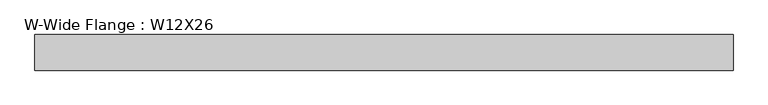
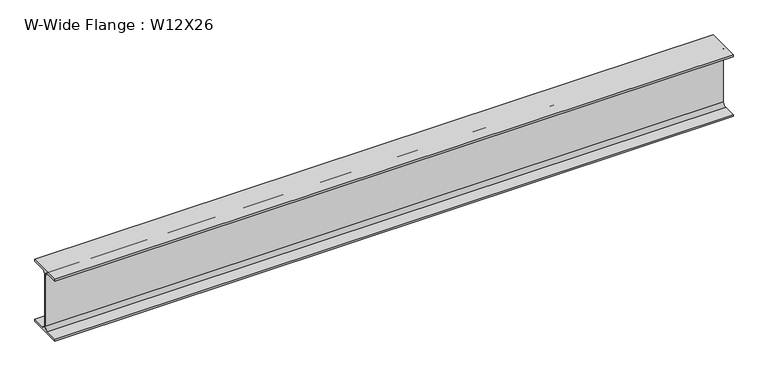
"""IFC4 building model written with IfcOpenShell, lengths in millimetres: beam geometry, W-Wide Flange : W12X26."""

from ifc_helpers import new_model, si_unit, point, frame, frame_2d, origin, place, context, project, spatial, polyline, circle_curve, trimmed, segment, composite_curve, outline, extrude, source, transform, mapped, element, save


def w_wide_flange_w12x26_715d0f22(model_context):
    return source(origin(), model_context, "Body", "SweptSolid", [
        extrude(outline(composite_curve([segment(polyline([(82.4011719, -145.5539063), (82.4011719, -155.178125), (-82.4011719, -155.178125), (-82.4011719, -145.5539063), (-20.2902344, -145.5539063)]), True, "CONTINUOUS"), segment(trimmed(circle_curve(frame_2d((-20.2902344, -128.190625)), 17.3632812), [point((-20.2902344, -145.5539063))], [point((-2.9269531, -128.190625))], True, "CARTESIAN"), True, "CONTINUOUS"), segment(polyline([(-2.9269531, -128.190625), (-2.9269531, 128.190625)]), True, "CONTINUOUS"), segment(trimmed(circle_curve(frame_2d((-20.2902344, 128.190625)), 17.3632812), [point((-2.9269531, 128.190625))], [point((-20.2902344, 145.5539062))], True, "CARTESIAN"), True, "CONTINUOUS"), segment(polyline([(-20.2902344, 145.5539062), (-82.4011719, 145.5539062), (-82.4011719, 155.178125), (82.4011719, 155.178125), (82.4011719, 145.5539062), (20.2902344, 145.5539062)]), True, "CONTINUOUS"), segment(trimmed(circle_curve(frame_2d((20.2902344, 128.190625)), 17.3632812), [point((20.2902344, 145.5539062))], [point((2.9269531, 128.190625))], True, "CARTESIAN"), True, "CONTINUOUS"), segment(polyline([(2.9269531, 128.190625), (2.9269531, -128.190625)]), True, "CONTINUOUS"), segment(trimmed(circle_curve(frame_2d((20.2902344, -128.190625)), 17.3632812), [point((2.9269531, -128.190625))], [point((20.2902344, -145.5539063))], True, "CARTESIAN"), True, "CONTINUOUS"), segment(polyline([(20.2902344, -145.5539063), (82.4011719, -145.5539063)]), True, "CONTINUOUS")], self_intersect=False)), frame((-1612.9, 0.0, 0.0), z_axis=(1.0, 0.0, 0.0), x_axis=(0.0, 1.0, 0.0)), (0.0, 0.0, 1.0), 3225.8),
    ])


if __name__ == "__main__":
    model = new_model("IFC4")
    model_context = context("Model", 3, world=origin())
    ifc_project = project(units=[si_unit("LENGTHUNIT", "METRE", prefix="MILLI")], contexts=[model_context])
    site = spatial("IfcSite", under=ifc_project)
    building = spatial("IfcBuilding", under=site)
    placement = place(None, origin())
    w_wide_flange_w12x26_shape = w_wide_flange_w12x26_715d0f22(model_context)
    element("IfcBeam", 1, ObjectType="W-Wide Flange : W12X26", at=placement, inside=building, context=model_context, shape_type="MappedRepresentation", body=[
        mapped(w_wide_flange_w12x26_shape, transform((0.0, 0.0, 0.0), x_axis=(1.0, 0.0, 0.0), y_axis=(0.0, 1.0, 0.0), z_axis=(0.0, 0.0, 1.0))),
    ])
    save(model, "model.ifc")
